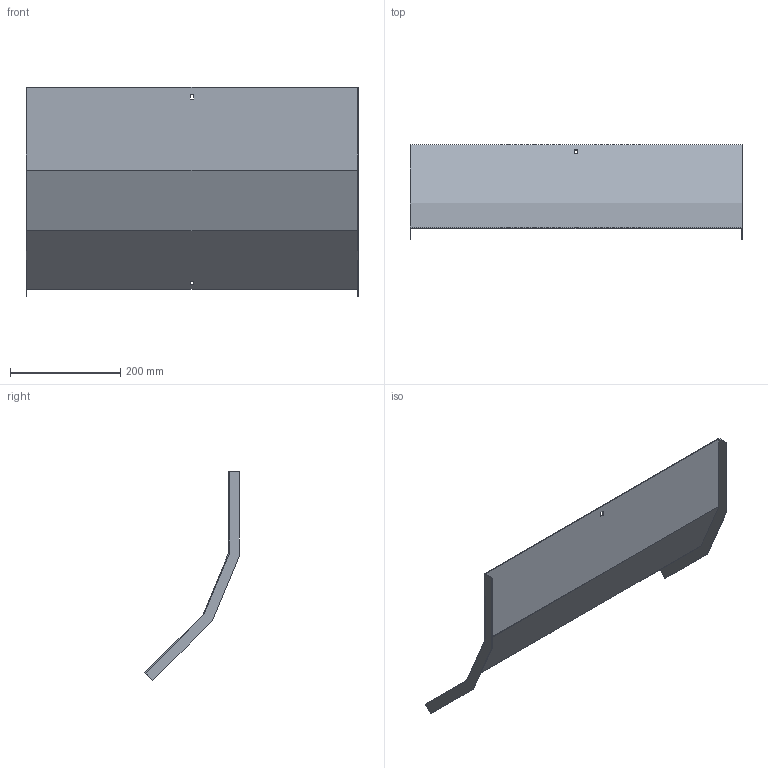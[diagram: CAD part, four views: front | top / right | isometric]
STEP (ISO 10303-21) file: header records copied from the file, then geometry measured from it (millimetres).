
FILE_DESCRIPTION (( 'STEP AP214' ), '1' );
FILE_NAME ('A2X31N3R600X.step', '2025-03-20T09:41:14', ( '' ), ( '' ), 'SwSTEP 2.0', 'SolidWorks 2023', '' );
FILE_SCHEMA (( 'AUTOMOTIVE_DESIGN' ));
Length unit declared in the file: millimetre
Products named in the file (1): A2X31N3R600X
Bounding box: 603 x 171.43 x 379.72 mm (x, y, z)
Volume: 402599 mm3; surface area: 540113.1 mm2
Topology: 1 solids, 1 shells, 26 faces, 72 edges, 48 vertices
Faces by surface type: plane 26
Entity records: 847 total; most frequent: CARTESIAN_POINT 147, ORIENTED_EDGE 144, DIRECTION 126, EDGE_CURVE 72, LINE 72, VECTOR 72, VERTEX_POINT 48, EDGE_LOOP 30
